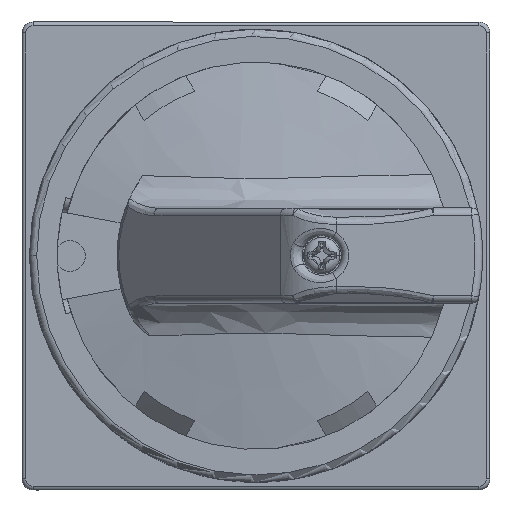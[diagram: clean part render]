
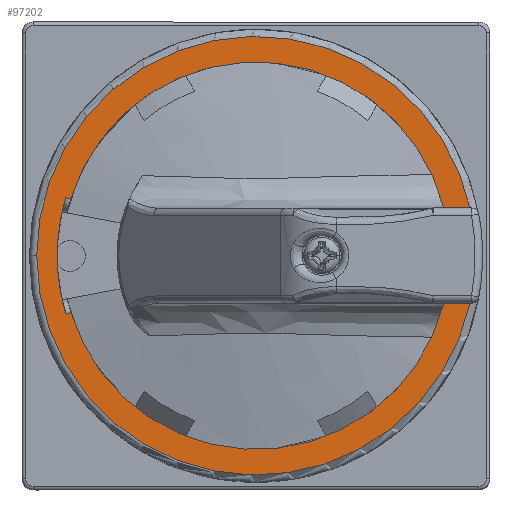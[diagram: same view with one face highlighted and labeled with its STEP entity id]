
A CAD part, top view. The second image highlights one B-rep face of the part: STEP entity #97202.
In plain terms, the highlighted planar face has unit normal (0, 0, 1).
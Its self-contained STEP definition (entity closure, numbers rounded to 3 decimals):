
#2616 = FACE_OUTER_BOUND ( 'NONE', #35261, .T. ) ;
#4160 = ORIENTED_EDGE ( 'NONE', *, *, #149649, .T. ) ;
#5922 = ORIENTED_EDGE ( 'NONE', *, *, #206602, .T. ) ;
#13302 = DIRECTION ( 'NONE',  ( 1., 0., 0. ) ) ;
#16477 = EDGE_CURVE ( 'NONE', #253805, #241462, #126667, .T. ) ;
#18876 = ORIENTED_EDGE ( 'NONE', *, *, #16477, .F. ) ;
#19607 = EDGE_CURVE ( 'NONE', #224083, #76083, #255822, .T. ) ;
#21997 = CARTESIAN_POINT ( 'NONE',  ( -20.839, -5.111, -26.982 ) ) ;
#23508 = CIRCLE ( 'NONE', #104500, 27.2 ) ;
#23654 = DIRECTION ( 'NONE',  ( -1., 0., 0. ) ) ;
#31309 = EDGE_CURVE ( 'NONE', #132255, #278653, #245168, .T. ) ;
#32688 = DIRECTION ( 'NONE',  ( 0., 0., 1. ) ) ;
#35261 = EDGE_LOOP ( 'NONE', ( #91099, #125275, #5922, #148235, #160434, #154796, #97364, #18876, #4160, #276223 ) ) ;
#37198 = DIRECTION ( 'NONE',  ( -1., 0., 0. ) ) ;
#37453 = CARTESIAN_POINT ( 'NONE',  ( -19.654, 2.828, -26.982 ) ) ;
#43994 = CARTESIAN_POINT ( 'NONE',  ( -19.803, -13.077, -26.982 ) ) ;
#55493 = CARTESIAN_POINT ( 'NONE',  ( 32.052, -11.611, -26.982 ) ) ;
#56486 = DIRECTION ( 'NONE',  ( -1., 0., 0. ) ) ;
#59616 = AXIS2_PLACEMENT_3D ( 'NONE', #113289, #70187, #276593 ) ;
#61025 = CARTESIAN_POINT ( 'NONE',  ( 6.361, -5.111, -26.982 ) ) ;
#66393 = CIRCLE ( 'NONE', #59616, 30. ) ;
#68135 = AXIS2_PLACEMENT_3D ( 'NONE', #226723, #251812, #114514 ) ;
#70187 = DIRECTION ( 'NONE',  ( 0., 0., 1. ) ) ;
#72449 = CARTESIAN_POINT ( 'NONE',  ( -18.962, 2.699, -26.982 ) ) ;
#76083 = VERTEX_POINT ( 'NONE', #180881 ) ;
#82474 = DIRECTION ( 'NONE',  ( -1., 0., 0. ) ) ;
#83777 = EDGE_CURVE ( 'NONE', #224083, #263298, #292428, .T. ) ;
#87248 = VECTOR ( 'NONE', #145366, 1000. ) ;
#88314 = DIRECTION ( 'NONE',  ( -1., 0., 0. ) ) ;
#91099 = ORIENTED_EDGE ( 'NONE', *, *, #228507, .F. ) ;
#91923 = AXIS2_PLACEMENT_3D ( 'NONE', #264883, #192757, #56486 ) ;
#95044 = DIRECTION ( 'NONE',  ( -0.983, -0.183, 0. ) ) ;
#97202 = ADVANCED_FACE ( 'NONE', ( #2616 ), #170737, .T. ) ;
#97364 = ORIENTED_EDGE ( 'NONE', *, *, #184735, .F. ) ;
#99233 = CARTESIAN_POINT ( 'NONE',  ( 36.672, -11.611, -26.982 ) ) ;
#101607 = CARTESIAN_POINT ( 'NONE',  ( 6.361, -5.111, -26.982 ) ) ;
#101787 = LINE ( 'NONE', #162264, #169891 ) ;
#103259 = DIRECTION ( 'NONE',  ( 0., 0., -1. ) ) ;
#104500 = AXIS2_PLACEMENT_3D ( 'NONE', #101607, #32688, #82474 ) ;
#105758 = LINE ( 'NONE', #43994, #227618 ) ;
#113289 = CARTESIAN_POINT ( 'NONE',  ( 6.361, -5.111, -26.982 ) ) ;
#114514 = DIRECTION ( 'NONE',  ( 1., 0., 0. ) ) ;
#118952 = LINE ( 'NONE', #249623, #265902 ) ;
#120113 = CARTESIAN_POINT ( 'NONE',  ( -19.654, -13.049, -26.982 ) ) ;
#125275 = ORIENTED_EDGE ( 'NONE', *, *, #31309, .T. ) ;
#126667 = CIRCLE ( 'NONE', #260325, 27.2 ) ;
#132255 = VERTEX_POINT ( 'NONE', #176949 ) ;
#137607 = CARTESIAN_POINT ( 'NONE',  ( 6.361, -5.111, -26.982 ) ) ;
#144871 = CARTESIAN_POINT ( 'NONE',  ( -23.639, -5.111, -26.982 ) ) ;
#145366 = DIRECTION ( 'NONE',  ( 1., 0., 0. ) ) ;
#148235 = ORIENTED_EDGE ( 'NONE', *, *, #19607, .F. ) ;
#149649 = EDGE_CURVE ( 'NONE', #253805, #156635, #101787, .T. ) ;
#152642 = EDGE_CURVE ( 'NONE', #263298, #214529, #105758, .T. ) ;
#154796 = ORIENTED_EDGE ( 'NONE', *, *, #152642, .T. ) ;
#156635 = VERTEX_POINT ( 'NONE', #72449 ) ;
#160434 = ORIENTED_EDGE ( 'NONE', *, *, #83777, .T. ) ;
#161173 = CIRCLE ( 'NONE', #231220, 26.5 ) ;
#162264 = CARTESIAN_POINT ( 'NONE',  ( -19.114, 2.728, -26.982 ) ) ;
#162947 = VERTEX_POINT ( 'NONE', #225895 ) ;
#169891 = VECTOR ( 'NONE', #249458, 1000. ) ;
#170737 = PLANE ( 'NONE',  #91923 ) ;
#174310 = DIRECTION ( 'NONE',  ( 0., 0., 1. ) ) ;
#176949 = CARTESIAN_POINT ( 'NONE',  ( 35.649, 1.389, -26.982 ) ) ;
#180261 = CARTESIAN_POINT ( 'NONE',  ( -18.962, -12.921, -26.982 ) ) ;
#180881 = CARTESIAN_POINT ( 'NONE',  ( 35.649, -11.611, -26.982 ) ) ;
#184735 = EDGE_CURVE ( 'NONE', #241462, #214529, #23508, .T. ) ;
#192757 = DIRECTION ( 'NONE',  ( 0., 0., 1. ) ) ;
#206602 = EDGE_CURVE ( 'NONE', #278653, #76083, #66393, .T. ) ;
#214529 = VERTEX_POINT ( 'NONE', #120113 ) ;
#217659 = AXIS2_PLACEMENT_3D ( 'NONE', #61025, #174310, #37198 ) ;
#219773 = EDGE_CURVE ( 'NONE', #156635, #162947, #161173, .T. ) ;
#224083 = VERTEX_POINT ( 'NONE', #55493 ) ;
#225895 = CARTESIAN_POINT ( 'NONE',  ( 32.052, 1.389, -26.982 ) ) ;
#226723 = CARTESIAN_POINT ( 'NONE',  ( 6.361, -5.111, -26.982 ) ) ;
#227618 = VECTOR ( 'NONE', #95044, 1000. ) ;
#228507 = EDGE_CURVE ( 'NONE', #132255, #162947, #118952, .T. ) ;
#231220 = AXIS2_PLACEMENT_3D ( 'NONE', #287560, #103259, #13302 ) ;
#241462 = VERTEX_POINT ( 'NONE', #21997 ) ;
#243837 = DIRECTION ( 'NONE',  ( 0., 0., 1. ) ) ;
#245168 = CIRCLE ( 'NONE', #217659, 30. ) ;
#249458 = DIRECTION ( 'NONE',  ( 0.983, -0.183, 0. ) ) ;
#249623 = CARTESIAN_POINT ( 'NONE',  ( -11.492, 1.389, -26.982 ) ) ;
#251812 = DIRECTION ( 'NONE',  ( 0., 0., -1. ) ) ;
#253805 = VERTEX_POINT ( 'NONE', #37453 ) ;
#255822 = LINE ( 'NONE', #99233, #87248 ) ;
#260325 = AXIS2_PLACEMENT_3D ( 'NONE', #137607, #243837, #23654 ) ;
#263298 = VERTEX_POINT ( 'NONE', #180261 ) ;
#264883 = CARTESIAN_POINT ( 'NONE',  ( 37.361, -5.111, -26.982 ) ) ;
#265902 = VECTOR ( 'NONE', #88314, 1000. ) ;
#276223 = ORIENTED_EDGE ( 'NONE', *, *, #219773, .T. ) ;
#276593 = DIRECTION ( 'NONE',  ( -1., 0., 0. ) ) ;
#278653 = VERTEX_POINT ( 'NONE', #144871 ) ;
#287560 = CARTESIAN_POINT ( 'NONE',  ( 6.361, -5.111, -26.982 ) ) ;
#292428 = CIRCLE ( 'NONE', #68135, 26.5 ) ;
